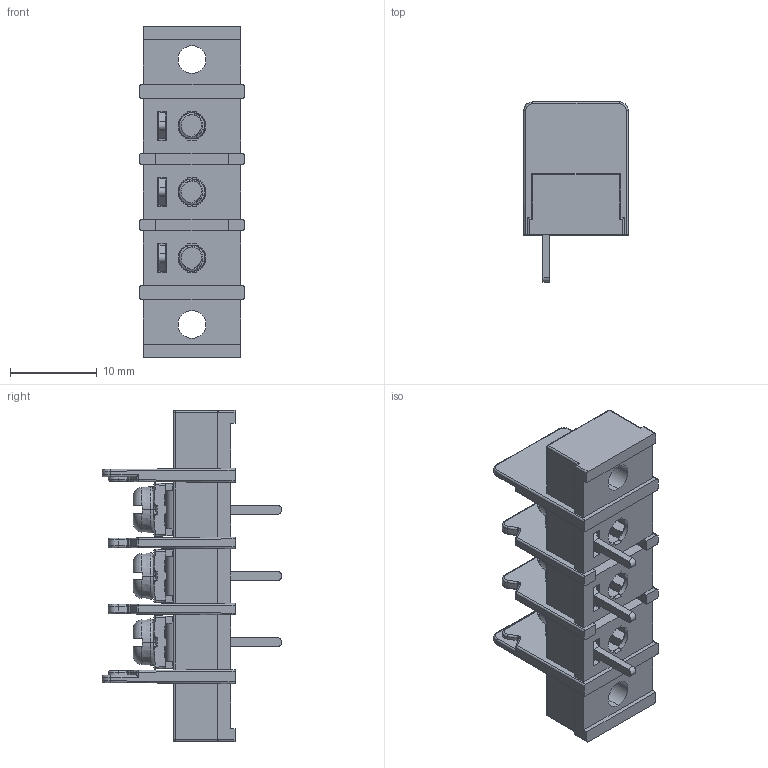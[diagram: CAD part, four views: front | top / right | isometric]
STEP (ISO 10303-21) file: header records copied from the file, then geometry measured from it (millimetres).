
FILE_DESCRIPTION((''),'2;1');
FILE_NAME('3PIN','2021-04-15T',('hanke'),(''),'CREO PARAMETRIC BY PTC INC, 2016260','CREO PARAMETRIC BY PTC INC, 2016260','');
FILE_SCHEMA(('CONFIG_CONTROL_DESIGN'));
Products named in the file (1): 3PIN
Bounding box: 12 x 20.7 x 38.1 mm (x, y, z)
Volume: 2652.8 mm3; surface area: 5077.1 mm2
Topology: 1 solids, 1 shells, 1278 faces, 3762 edges, 2402 vertices
Faces by surface type: plane 671, cylinder 325, bspline 105, torus 80, sphere 61, cone 36
Entity records: 57943 total; most frequent: CARTESIAN_POINT 25327, ORIENTED_EDGE 7480, DIRECTION 6058, EDGE_CURVE 3740, VERTEX_POINT 2402, AXIS2_PLACEMENT_3D 2036, VECTOR 1986, LINE 1986
